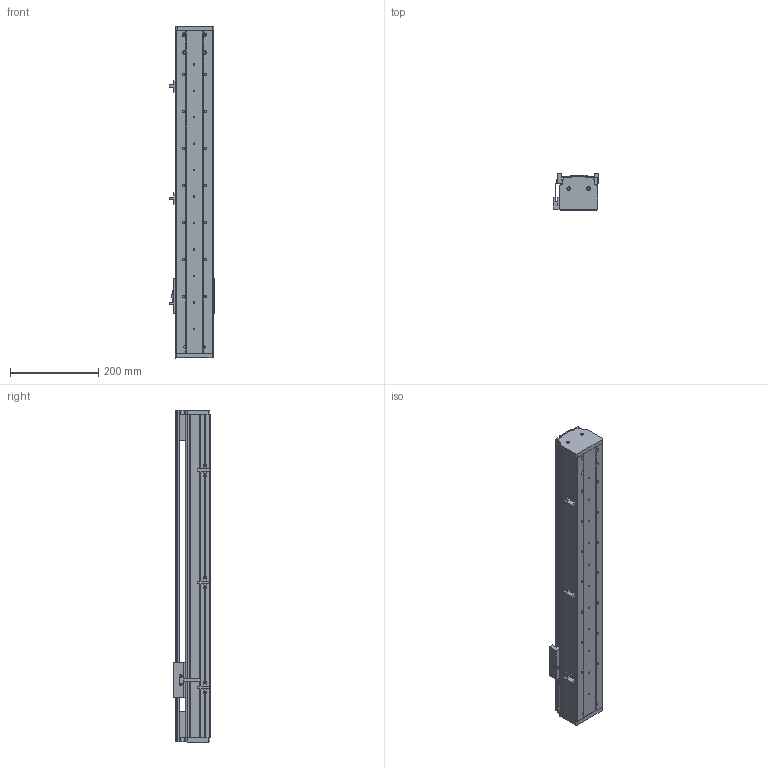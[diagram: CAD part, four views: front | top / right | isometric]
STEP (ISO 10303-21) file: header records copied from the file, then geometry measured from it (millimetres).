
FILE_DESCRIPTION (( 'STEP AP214' ), '1' );
FILE_NAME ('CF86-D-500-FWR.STEP', '2020-01-15T07:20:04', ( '微软用户' ), ( '微软中国' ), 'SwSTEP 2.0', 'SolidWorks 2016', '' );
FILE_SCHEMA (( 'AUTOMOTIVE_DESIGN' ));
Length unit declared in the file: millimetre
Products named in the file (12): 86臏倰第-500; 86裔啣-500; CF86-D-500-FWR; 嫖萇羲壽; 75-86-95癹弇羲壽覜茼え; 86耜啣 - 萵掛; 86耜啣; 植雄耜; CF86郔陔翋雄釱; CF86賑輸; EGW15CA賑輸; EGR15-500
Assembly tree (13 placements, depth 2):
  CF86-D-500-FWR
    86裔啣-500
    86臏倰第-500
    EGR15-500
    EGW15CA賑輸
    CF86賑輸
    CF86郔陔翋雄釱
    植雄耜
    86耜啣
    86耜啣 - 萵掛
    75-86-95癹弇羲壽覜茼え
    嫖萇羲壽  x3
Bounding box: 103.6 x 83.35 x 753 mm (x, y, z)
Volume: 2145192.6 mm3; surface area: 678387.5 mm2
Topology: 13 solids, 13 shells, 670 faces, 1854 edges, 1225 vertices
Faces by surface type: plane 361, cylinder 299, cone 10
Entity records: 21588 total; most frequent: CARTESIAN_POINT 3743, DIRECTION 3514, ORIENTED_EDGE 3400, EDGE_CURVE 1700, AXIS2_PLACEMENT_3D 1236, VERTEX_POINT 1129, VECTOR 1042, LINE 1042
